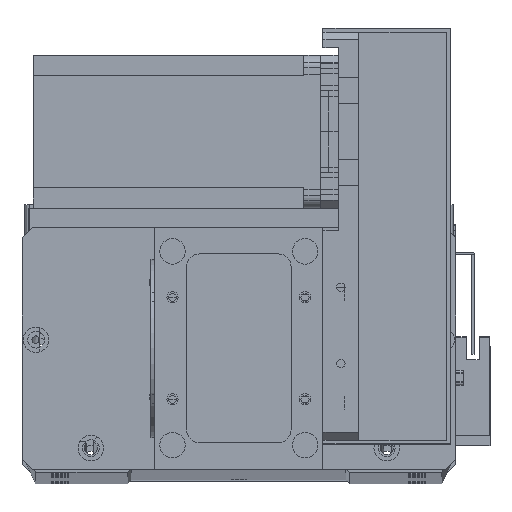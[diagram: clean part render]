
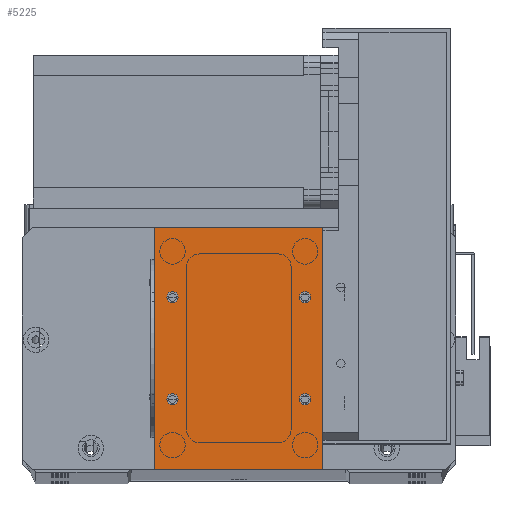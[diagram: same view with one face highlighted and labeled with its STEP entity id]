
A CAD part, top view. The second image highlights one B-rep face of the part: STEP entity #5225.
In plain terms, the highlighted planar face has unit normal (0, 0, 1).
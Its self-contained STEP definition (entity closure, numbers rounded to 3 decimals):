
#199 = CARTESIAN_POINT ( 'NONE',  ( 59., 67.5, 2. ) ) ;
#393 = AXIS2_PLACEMENT_3D ( 'NONE', #28973, #13274, #31581 ) ;
#415 = EDGE_CURVE ( 'NONE', #17538, #27804, #31042, .T. ) ;
#491 = CARTESIAN_POINT ( 'NONE',  ( 4.75, 27.5, 2. ) ) ;
#1075 = CIRCLE ( 'NONE', #23070, 2.25 ) ;
#1435 = EDGE_CURVE ( 'NONE', #2266, #10126, #4483, .T. ) ;
#1576 = VERTEX_POINT ( 'NONE', #491 ) ;
#2008 = CARTESIAN_POINT ( 'NONE',  ( 66., 95., 2. ) ) ;
#2104 = PLANE ( 'NONE',  #29562 ) ;
#2187 = FACE_BOUND ( 'NONE', #23115, .T. ) ;
#2217 = DIRECTION ( 'NONE',  ( -1., 0., 0. ) ) ;
#2266 = VERTEX_POINT ( 'NONE', #13694 ) ;
#2284 = CARTESIAN_POINT ( 'NONE',  ( 59., 67.5, 2. ) ) ;
#2425 = AXIS2_PLACEMENT_3D ( 'NONE', #20978, #5355, #23622 ) ;
#2847 = DIRECTION ( 'NONE',  ( 1., 0., 0. ) ) ;
#4087 = VECTOR ( 'NONE', #5471, 1000. ) ;
#4483 = LINE ( 'NONE', #31209, #10627 ) ;
#4910 = CARTESIAN_POINT ( 'NONE',  ( 61.25, 27.5, 2. ) ) ;
#4916 = DIRECTION ( 'NONE',  ( 1., 0., 0. ) ) ;
#5014 = ORIENTED_EDGE ( 'NONE', *, *, #27566, .T. ) ;
#5147 = AXIS2_PLACEMENT_3D ( 'NONE', #21924, #6289, #24570 ) ;
#5185 = DIRECTION ( 'NONE',  ( 0., -1., 0. ) ) ;
#5225 = ADVANCED_FACE ( 'NONE', ( #29175, #16071, #24676, #2187, #22211 ), #2104, .F. ) ;
#5355 = DIRECTION ( 'NONE',  ( 0., 0., 1. ) ) ;
#5373 = CIRCLE ( 'NONE', #25256, 2.25 ) ;
#5462 = CIRCLE ( 'NONE', #393, 2.25 ) ;
#5471 = DIRECTION ( 'NONE',  ( 0., 1., 0. ) ) ;
#5667 = VECTOR ( 'NONE', #11622, 1000. ) ;
#5726 = CARTESIAN_POINT ( 'NONE',  ( 66., 0., 2. ) ) ;
#5784 = ORIENTED_EDGE ( 'NONE', *, *, #24757, .F. ) ;
#5849 = AXIS2_PLACEMENT_3D ( 'NONE', #12993, #31282, #15629 ) ;
#6027 = VERTEX_POINT ( 'NONE', #4910 ) ;
#6141 = EDGE_CURVE ( 'NONE', #7994, #6027, #16822, .T. ) ;
#6181 = EDGE_LOOP ( 'NONE', ( #28117, #26462, #15877, #5014 ) ) ;
#6289 = DIRECTION ( 'NONE',  ( 0., 0., 1. ) ) ;
#6437 = CARTESIAN_POINT ( 'NONE',  ( 7., 67.5, 2. ) ) ;
#7272 = CARTESIAN_POINT ( 'NONE',  ( 0., 0., 2. ) ) ;
#7623 = ORIENTED_EDGE ( 'NONE', *, *, #17672, .F. ) ;
#7808 = ORIENTED_EDGE ( 'NONE', *, *, #16789, .F. ) ;
#7899 = CARTESIAN_POINT ( 'NONE',  ( 7., 27.5, 2. ) ) ;
#7967 = EDGE_CURVE ( 'NONE', #16291, #1576, #32080, .T. ) ;
#7994 = VERTEX_POINT ( 'NONE', #13099 ) ;
#8645 = EDGE_CURVE ( 'NONE', #6027, #7994, #5462, .T. ) ;
#9072 = DIRECTION ( 'NONE',  ( 1., 0., 0. ) ) ;
#9873 = CIRCLE ( 'NONE', #5147, 2.25 ) ;
#9892 = DIRECTION ( 'NONE',  ( 1., 0., 0. ) ) ;
#10126 = VERTEX_POINT ( 'NONE', #17787 ) ;
#10441 = EDGE_LOOP ( 'NONE', ( #16331, #21050 ) ) ;
#10517 = DIRECTION ( 'NONE',  ( 1., 0., 0. ) ) ;
#10591 = ORIENTED_EDGE ( 'NONE', *, *, #6141, .F. ) ;
#10627 = VECTOR ( 'NONE', #5185, 1000. ) ;
#11395 = CARTESIAN_POINT ( 'NONE',  ( 56.75, 67.5, 2. ) ) ;
#11517 = ORIENTED_EDGE ( 'NONE', *, *, #8645, .F. ) ;
#11622 = DIRECTION ( 'NONE',  ( -1., 0., 0. ) ) ;
#12396 = ORIENTED_EDGE ( 'NONE', *, *, #7967, .F. ) ;
#12595 = LINE ( 'NONE', #22011, #5667 ) ;
#12803 = CARTESIAN_POINT ( 'NONE',  ( 9.25, 67.5, 2. ) ) ;
#12993 = CARTESIAN_POINT ( 'NONE',  ( 7., 27.5, 2. ) ) ;
#13099 = CARTESIAN_POINT ( 'NONE',  ( 56.75, 27.5, 2. ) ) ;
#13150 = EDGE_CURVE ( 'NONE', #15701, #30473, #1075, .T. ) ;
#13274 = DIRECTION ( 'NONE',  ( 0., 0., 1. ) ) ;
#13694 = CARTESIAN_POINT ( 'NONE',  ( 0., 95., 2. ) ) ;
#15629 = DIRECTION ( 'NONE',  ( 1., 0., 0. ) ) ;
#15701 = VERTEX_POINT ( 'NONE', #16168 ) ;
#15704 = AXIS2_PLACEMENT_3D ( 'NONE', #6437, #24721, #9072 ) ;
#15877 = ORIENTED_EDGE ( 'NONE', *, *, #415, .T. ) ;
#16071 = FACE_BOUND ( 'NONE', #10441, .T. ) ;
#16168 = CARTESIAN_POINT ( 'NONE',  ( 61.25, 67.5, 2. ) ) ;
#16291 = VERTEX_POINT ( 'NONE', #29172 ) ;
#16331 = ORIENTED_EDGE ( 'NONE', *, *, #13150, .F. ) ;
#16789 = EDGE_CURVE ( 'NONE', #1576, #16291, #5373, .T. ) ;
#16822 = CIRCLE ( 'NONE', #2425, 2.25 ) ;
#17496 = LINE ( 'NONE', #7272, #29781 ) ;
#17538 = VERTEX_POINT ( 'NONE', #5726 ) ;
#17672 = EDGE_CURVE ( 'NONE', #20659, #20251, #9873, .T. ) ;
#17787 = CARTESIAN_POINT ( 'NONE',  ( 0., 0., 2. ) ) ;
#17844 = DIRECTION ( 'NONE',  ( 0., 0., -1. ) ) ;
#18384 = EDGE_LOOP ( 'NONE', ( #11517, #10591 ) ) ;
#18466 = DIRECTION ( 'NONE',  ( 0., 0., 1. ) ) ;
#19616 = EDGE_CURVE ( 'NONE', #10126, #17538, #17496, .T. ) ;
#20251 = VERTEX_POINT ( 'NONE', #12803 ) ;
#20553 = DIRECTION ( 'NONE',  ( 0., 0., 1. ) ) ;
#20659 = VERTEX_POINT ( 'NONE', #28005 ) ;
#20978 = CARTESIAN_POINT ( 'NONE',  ( 59., 27.5, 2. ) ) ;
#21050 = ORIENTED_EDGE ( 'NONE', *, *, #30277, .F. ) ;
#21924 = CARTESIAN_POINT ( 'NONE',  ( 7., 67.5, 2. ) ) ;
#22011 = CARTESIAN_POINT ( 'NONE',  ( 0., 95., 2. ) ) ;
#22211 = FACE_OUTER_BOUND ( 'NONE', #6181, .T. ) ;
#23070 = AXIS2_PLACEMENT_3D ( 'NONE', #2284, #20553, #4916 ) ;
#23115 = EDGE_LOOP ( 'NONE', ( #12396, #7808 ) ) ;
#23125 = CIRCLE ( 'NONE', #15704, 2.25 ) ;
#23622 = DIRECTION ( 'NONE',  ( 1., 0., 0. ) ) ;
#24296 = CIRCLE ( 'NONE', #27163, 2.25 ) ;
#24570 = DIRECTION ( 'NONE',  ( 1., 0., 0. ) ) ;
#24676 = FACE_BOUND ( 'NONE', #18384, .T. ) ;
#24721 = DIRECTION ( 'NONE',  ( 0., 0., 1. ) ) ;
#24757 = EDGE_CURVE ( 'NONE', #20251, #20659, #23125, .T. ) ;
#25256 = AXIS2_PLACEMENT_3D ( 'NONE', #7899, #26168, #10517 ) ;
#26168 = DIRECTION ( 'NONE',  ( 0., 0., 1. ) ) ;
#26462 = ORIENTED_EDGE ( 'NONE', *, *, #19616, .T. ) ;
#27163 = AXIS2_PLACEMENT_3D ( 'NONE', #199, #18466, #2847 ) ;
#27297 = EDGE_LOOP ( 'NONE', ( #5784, #7623 ) ) ;
#27566 = EDGE_CURVE ( 'NONE', #27804, #2266, #12595, .T. ) ;
#27804 = VERTEX_POINT ( 'NONE', #2008 ) ;
#28005 = CARTESIAN_POINT ( 'NONE',  ( 4.75, 67.5, 2. ) ) ;
#28117 = ORIENTED_EDGE ( 'NONE', *, *, #1435, .T. ) ;
#28973 = CARTESIAN_POINT ( 'NONE',  ( 59., 27.5, 2. ) ) ;
#29015 = CARTESIAN_POINT ( 'NONE',  ( 66., 0., 2. ) ) ;
#29172 = CARTESIAN_POINT ( 'NONE',  ( 9.25, 27.5, 2. ) ) ;
#29175 = FACE_BOUND ( 'NONE', #27297, .T. ) ;
#29562 = AXIS2_PLACEMENT_3D ( 'NONE', #30884, #17844, #2217 ) ;
#29781 = VECTOR ( 'NONE', #9892, 1000. ) ;
#30277 = EDGE_CURVE ( 'NONE', #30473, #15701, #24296, .T. ) ;
#30473 = VERTEX_POINT ( 'NONE', #11395 ) ;
#30884 = CARTESIAN_POINT ( 'NONE',  ( 0., 0., 2. ) ) ;
#31042 = LINE ( 'NONE', #29015, #4087 ) ;
#31209 = CARTESIAN_POINT ( 'NONE',  ( 0., 0., 2. ) ) ;
#31282 = DIRECTION ( 'NONE',  ( 0., 0., 1. ) ) ;
#31581 = DIRECTION ( 'NONE',  ( 1., 0., 0. ) ) ;
#32080 = CIRCLE ( 'NONE', #5849, 2.25 ) ;
